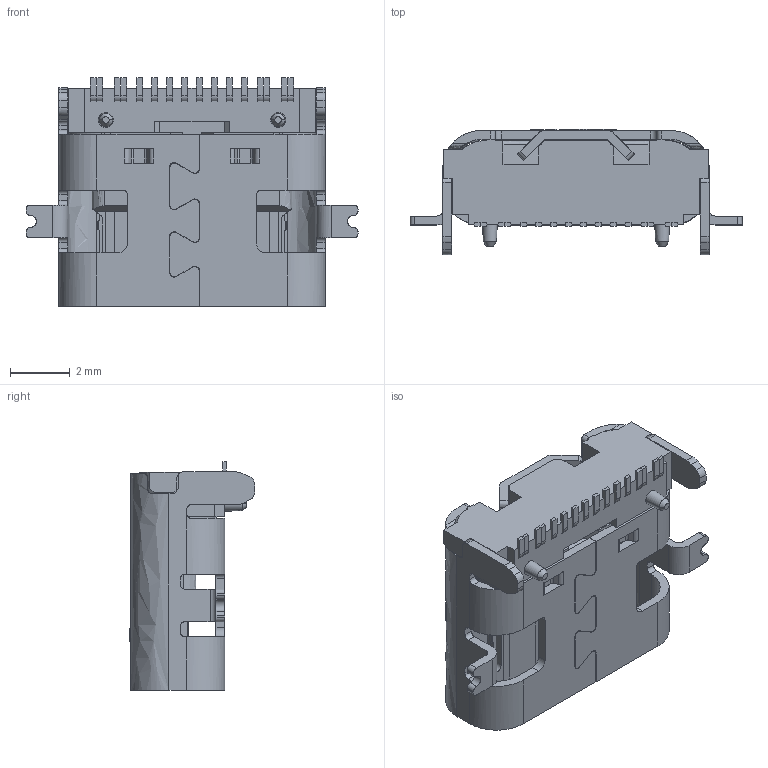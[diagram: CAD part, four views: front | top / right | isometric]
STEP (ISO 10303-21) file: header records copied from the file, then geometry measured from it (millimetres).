
FILE_DESCRIPTION (( 'STEP AP203' ), '1' );
FILE_NAME ('GT-USB-7047C.STEP', '2023-06-21T03:18:41', ( '' ), ( '' ), 'SwSTEP 2.0', 'SolidWorks 2023', '' );
FILE_SCHEMA (( 'CONFIG_CONTROL_DESIGN' ));
Length unit declared in the file: millimetre
Products named in the file (1): GT-USB-7047C
Bounding box: 11.14 x 4.21 x 7.67 mm (x, y, z)
Surface area: 603.2 mm2 (no closed solid volume)
Topology: 0 solids, 19 shells, 1342 faces, 3865 edges, 2570 vertices
Faces by surface type: bspline 1157, plane 185
Entity records: 47055 total; most frequent: CARTESIAN_POINT 22640, ORIENTED_EDGE 7722, EDGE_CURVE 3865, B_SPLINE_CURVE_WITH_KNOTS 2793, VERTEX_POINT 2570, EDGE_LOOP 1385, ADVANCED_FACE 1342, FACE_OUTER_BOUND 1342
